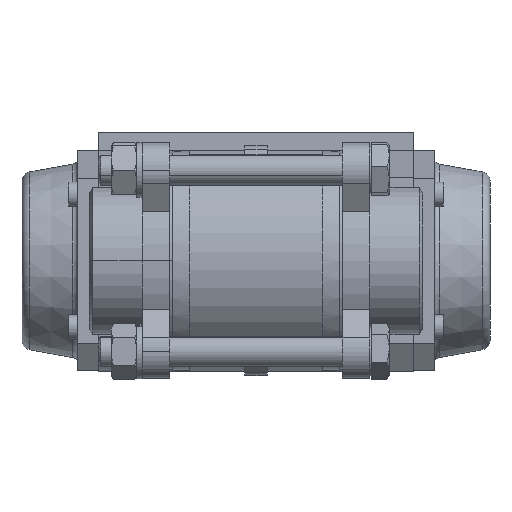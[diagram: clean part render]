
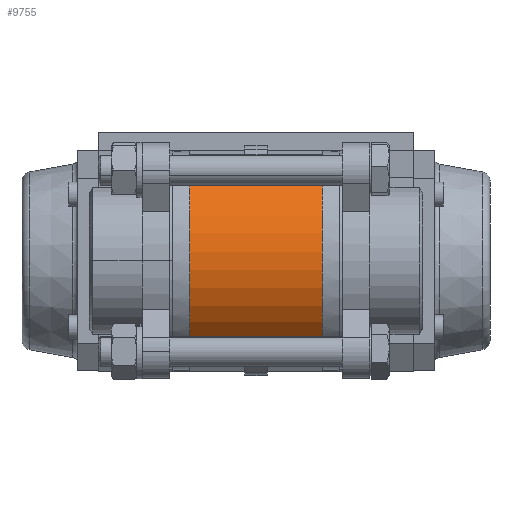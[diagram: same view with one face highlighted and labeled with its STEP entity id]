
A CAD part, front view. The second image highlights one B-rep face of the part: STEP entity #9755.
In plain terms, the highlighted cylindrical face has radius 35 mm (diameter 70 mm), a partial arc.
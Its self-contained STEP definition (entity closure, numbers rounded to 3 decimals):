
#573 = VECTOR ( 'NONE', #15400, 1000. ) ;
#581 = CIRCLE ( 'NONE', #582, 35. ) ;
#582 = AXIS2_PLACEMENT_3D ( 'NONE', #15403, #15404, #15405 ) ;
#592 = AXIS2_PLACEMENT_3D ( 'NONE', #15777, #15773, #15779 ) ;
#4179 = EDGE_CURVE ( 'NONE', #4578, #4576, #6317, .T. ) ;
#4239 = EDGE_CURVE ( 'NONE', #4578, #4580, #8709, .T. ) ;
#4576 = VERTEX_POINT ( 'NONE', #8817 ) ;
#4578 = VERTEX_POINT ( 'NONE', #8807 ) ;
#4580 = VERTEX_POINT ( 'NONE', #8820 ) ;
#6317 = CIRCLE ( 'NONE', #6402, 35. ) ;
#6346 = VECTOR ( 'NONE', #8711, 1000. ) ;
#6402 = AXIS2_PLACEMENT_3D ( 'NONE', #12929, #12930, #12931 ) ;
#6803 = VERTEX_POINT ( 'NONE', #9248 ) ;
#8540 = EDGE_CURVE ( 'NONE', #6803, #4576, #15392, .T. ) ;
#8541 = EDGE_CURVE ( 'NONE', #6803, #4580, #581, .T. ) ;
#8709 = LINE ( 'NONE', #8710, #6346 ) ;
#8710 = CARTESIAN_POINT ( 'NONE',  ( -27.5, -9., 33.823 ) ) ;
#8711 = DIRECTION ( 'NONE',  ( 1., 0., 0. ) ) ;
#8807 = CARTESIAN_POINT ( 'NONE',  ( -22., -9., 33.823 ) ) ;
#8817 = CARTESIAN_POINT ( 'NONE',  ( -22., -9., -33.823 ) ) ;
#8820 = CARTESIAN_POINT ( 'NONE',  ( 22., -9., 33.823 ) ) ;
#9248 = CARTESIAN_POINT ( 'NONE',  ( 22., -9., -33.823 ) ) ;
#9755 = ADVANCED_FACE ( 'NONE', ( #15776 ), #15775, .T. ) ;
#10480 = EDGE_LOOP ( 'NONE', ( #11336, #11337, #11338, #11339 ) ) ;
#11336 = ORIENTED_EDGE ( 'NONE', *, *, #8540, .F. ) ;
#11337 = ORIENTED_EDGE ( 'NONE', *, *, #8541, .T. ) ;
#11338 = ORIENTED_EDGE ( 'NONE', *, *, #4239, .F. ) ;
#11339 = ORIENTED_EDGE ( 'NONE', *, *, #4179, .T. ) ;
#12929 = CARTESIAN_POINT ( 'NONE',  ( -22., 0., 0. ) ) ;
#12930 = DIRECTION ( 'NONE',  ( 1., 0., 0. ) ) ;
#12931 = DIRECTION ( 'NONE',  ( 0., 0., 1. ) ) ;
#15391 = CARTESIAN_POINT ( 'NONE',  ( -27.5, -9., -33.823 ) ) ;
#15392 = LINE ( 'NONE', #15391, #573 ) ;
#15400 = DIRECTION ( 'NONE',  ( -1., 0., 0. ) ) ;
#15403 = CARTESIAN_POINT ( 'NONE',  ( 22., 0., 0. ) ) ;
#15404 = DIRECTION ( 'NONE',  ( -1., 0., 0. ) ) ;
#15405 = DIRECTION ( 'NONE',  ( 0., 0., -1. ) ) ;
#15773 = DIRECTION ( 'NONE',  ( 1., 0., 0. ) ) ;
#15775 = CYLINDRICAL_SURFACE ( 'NONE', #592, 35. ) ;
#15776 = FACE_OUTER_BOUND ( 'NONE', #10480, .T. ) ;
#15777 = CARTESIAN_POINT ( 'NONE',  ( -27.5, 0., 0. ) ) ;
#15779 = DIRECTION ( 'NONE',  ( 0., 0., -1. ) ) ;
